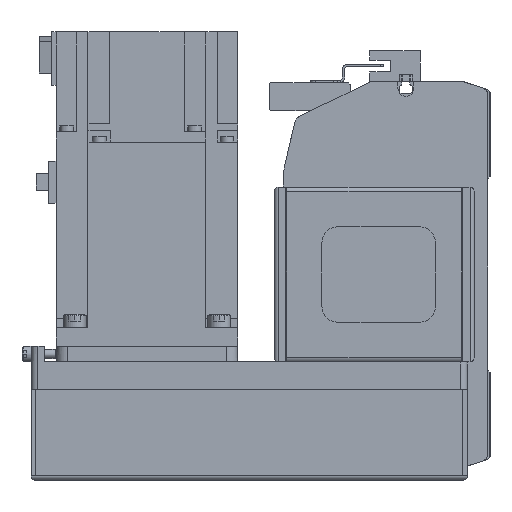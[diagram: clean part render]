
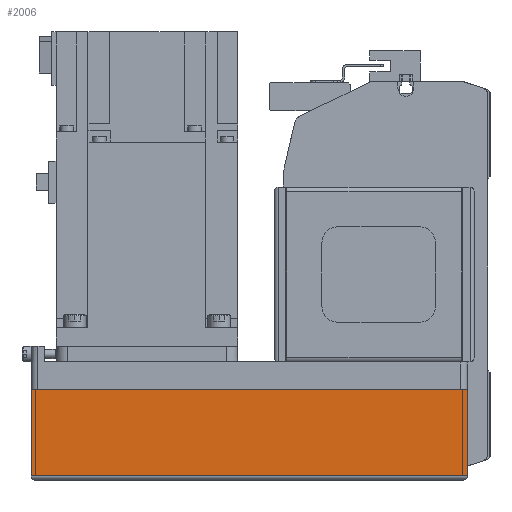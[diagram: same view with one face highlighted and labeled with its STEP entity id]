
A CAD part, left-side view. The second image highlights one B-rep face of the part: STEP entity #2006.
In plain terms, the highlighted planar face has unit normal (-1, 0, 0) as drawn and (0, -1, 0) by its records, which use the part's own axes.
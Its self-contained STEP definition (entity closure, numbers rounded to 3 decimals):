
#2006 = ADVANCED_FACE( '', ( #4568 ), #4569, .T. );
#4568 = FACE_OUTER_BOUND( '', #7814, .T. );
#4569 = PLANE( '', #7815 );
#7814 = EDGE_LOOP( '', ( #13529, #13530, #13531, #13532 ) );
#7815 = AXIS2_PLACEMENT_3D( '', #13533, #13534, #13535 );
#13529 = ORIENTED_EDGE( '', *, *, #19828, .F. );
#13530 = ORIENTED_EDGE( '', *, *, #20656, .F. );
#13531 = ORIENTED_EDGE( '', *, *, #19447, .T. );
#13532 = ORIENTED_EDGE( '', *, *, #19570, .T. );
#13533 = CARTESIAN_POINT( '', ( -192., -40., -12.1 ) );
#13534 = DIRECTION( '', ( 0., -1., 0. ) );
#13535 = DIRECTION( '', ( 0., 0., -1. ) );
#19447 = EDGE_CURVE( '', #23583, #23581, #23584, .T. );
#19570 = EDGE_CURVE( '', #23581, #23798, #23800, .T. );
#19828 = EDGE_CURVE( '', #21986, #23798, #24215, .T. );
#20656 = EDGE_CURVE( '', #23583, #21986, #25459, .T. );
#21986 = VERTEX_POINT( '', #27112 );
#23581 = VERTEX_POINT( '', #29473 );
#23583 = VERTEX_POINT( '', #29476 );
#23584 = LINE( '', #29477, #29478 );
#23798 = VERTEX_POINT( '', #29773 );
#23800 = LINE( '', #29775, #29776 );
#24215 = LINE( '', #30333, #30334 );
#25459 = LINE( '', #32208, #32209 );
#27112 = CARTESIAN_POINT( '', ( 0., -40., -12.1 ) );
#29473 = CARTESIAN_POINT( '', ( -192., -40., -50. ) );
#29476 = CARTESIAN_POINT( '', ( -192., -40., -12.1 ) );
#29477 = CARTESIAN_POINT( '', ( -192., -40., -12.1 ) );
#29478 = VECTOR( '', #35770, 1000. );
#29773 = CARTESIAN_POINT( '', ( 0., -40., -50. ) );
#29775 = CARTESIAN_POINT( '', ( -192., -40., -50. ) );
#29776 = VECTOR( '', #35924, 1000. );
#30333 = CARTESIAN_POINT( '', ( 0., -40., -12.1 ) );
#30334 = VECTOR( '', #36229, 1000. );
#32208 = CARTESIAN_POINT( '', ( -192., -40., -12.1 ) );
#32209 = VECTOR( '', #37252, 1000. );
#35770 = DIRECTION( '', ( 0., 0., -1. ) );
#35924 = DIRECTION( '', ( 1., 0., 0. ) );
#36229 = DIRECTION( '', ( 0., 0., -1. ) );
#37252 = DIRECTION( '', ( 1., 0., 0. ) );
